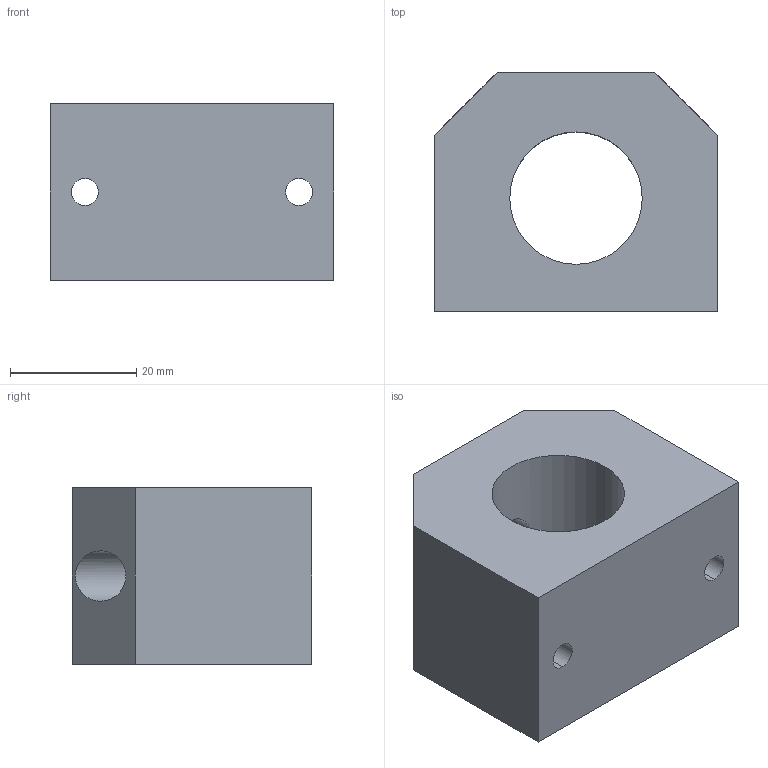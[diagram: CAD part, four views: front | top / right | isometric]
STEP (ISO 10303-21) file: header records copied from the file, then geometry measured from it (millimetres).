
FILE_DESCRIPTION (( 'STEP AP214' ), '1' );
FILE_NAME ('KGC27-14.step', '2020-03-04T13:05:56', ( '' ), ( '' ), 'SwSTEP 2.0', 'SolidWorks 2019', '' );
FILE_SCHEMA (( 'AUTOMOTIVE_DESIGN' ));
Length unit declared in the file: millimetre
Products named in the file (1): KGC27-14
Bounding box: 45 x 38 x 28 mm (x, y, z)
Volume: 32929.4 mm3; surface area: 9998.1 mm2
Topology: 1 solids, 1 shells, 22 faces, 54 edges, 36 vertices
Faces by surface type: cylinder 12, plane 10
Entity records: 830 total; most frequent: CARTESIAN_POINT 187, DIRECTION 112, ORIENTED_EDGE 108, EDGE_CURVE 54, AXIS2_PLACEMENT_3D 41, VERTEX_POINT 36, EDGE_LOOP 32, VECTOR 30
